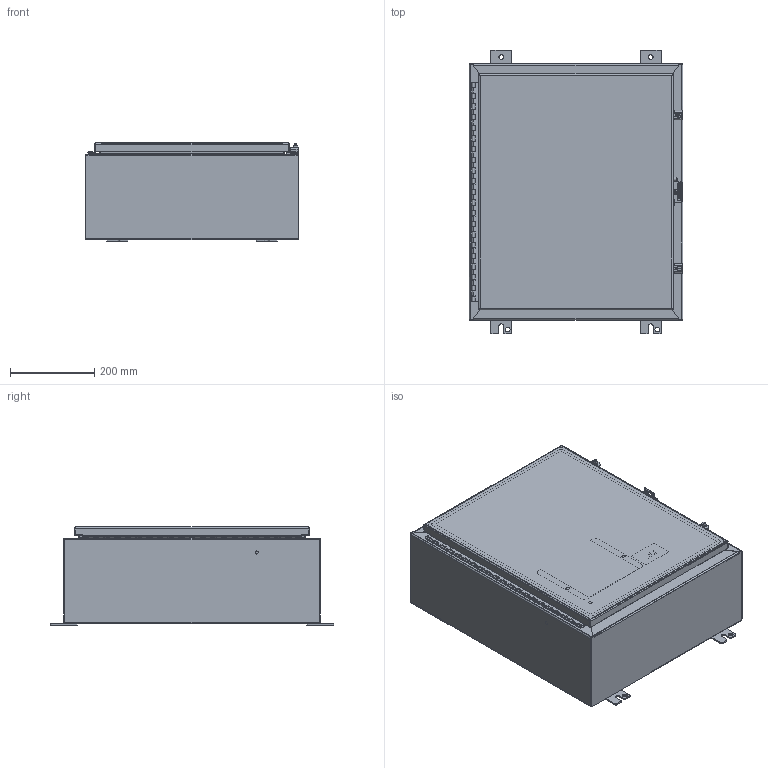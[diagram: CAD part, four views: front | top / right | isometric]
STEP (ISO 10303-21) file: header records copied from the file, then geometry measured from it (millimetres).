
FILE_DESCRIPTION((''),'2;1');
FILE_NAME('MODEL-303_ASM','2026-04-02T08:10:56',('ChadS'),('SAGINAW CONTROL & ENGINEERING'),'CREO PARAMETRIC BY PTC INC, 2021284','CREO PARAMETRIC BY PTC INC, 2021284','');
FILE_SCHEMA(('AUTOMOTIVE_DESIGN { 1 0 10303 214 1 1 1 1 }'));
Length unit declared in the file: inch
Products named in the file (30): MODEL-303-BDY; MODEL-303-TP; MODEL-303-BTM; MODEL-303-DR; 100837; 100882; 111541; 125597; 118919_DR; 118919_PIN; 118919_BX; 118919_STUD; 118919_ASM; 100897; MODEL-303-DOOR-GASKET; 128600; 102483; MODEL-303-DOOR-ASSY_ASM; 102211; 101653; 121452; 120131_BASE; 120131_CLAMP; 120131_SCREW; 120131_CLOSED_ASM; 120134; SUBPANEL; 100904; SUBPANEL-SUBASSEMBLY_ASM; MODEL-303_ASM
Assembly tree (52 placements, depth 4):
  MODEL-303_ASM
    MODEL-303-BDY
    MODEL-303-TP
    MODEL-303-BTM
    MODEL-303-DOOR-ASSY_ASM
      MODEL-303-DR
      100837  x3
      100882  x2
      111541
      125597
      118919_ASM
        118919_DR
        118919_PIN
        118919_BX
        118919_STUD  x4
      100897  x4
      MODEL-303-DOOR-GASKET
      128600
      102483
    102211  x4
    100837
    101653  x4
    121452
    120131_CLOSED_ASM  x2
      120131_BASE
      120131_CLAMP
      120131_SCREW
    100882  x3
    120134
    SUBPANEL-SUBASSEMBLY_ASM
      SUBPANEL
      100904  x4
Bounding box: 508 x 673.1 x 233.88 mm (x, y, z)
Volume: 3388905.6 mm3; surface area: 3134612.6 mm2
Topology: 49 solids, 49 shells, 3489 faces, 9056 edges, 5702 vertices
Faces by surface type: plane 1412, bspline 913, cylinder 777, torus 210, sphere 93, cone 84
Entity records: 94311 total; most frequent: CARTESIAN_POINT 30235, ORIENTED_EDGE 9486, DIRECTION 8573, PRESENTATION_STYLE_ASSIGNMENT 4874, STYLED_ITEM 4872, CURVE_STYLE 4743, EDGE_CURVE 4743, VERTEX_POINT 2992
